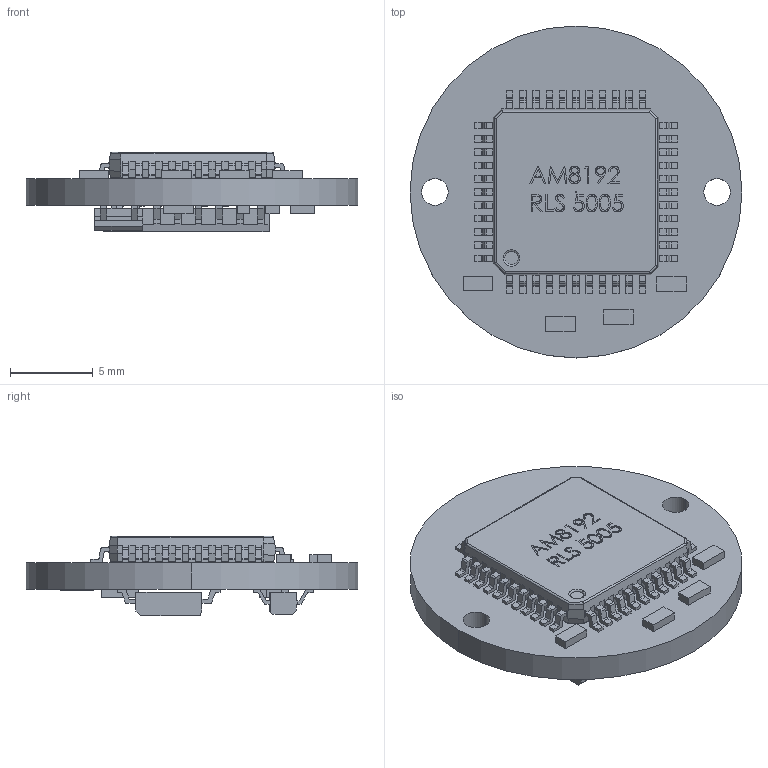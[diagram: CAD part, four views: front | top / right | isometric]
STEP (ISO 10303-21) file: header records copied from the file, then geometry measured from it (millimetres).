
FILE_DESCRIPTION (( 'STEP AP214' ), '1' );
FILE_NAME ('RMB20IC_HR.STEP', '2008-06-13T13:44:17', ( 'RLS' ), ( 'RLS merilna tehnika d.o.o.' ), 'SwSTEP 2.0', 'SolidWorks 2008', '' );
FILE_SCHEMA (( 'AUTOMOTIVE_DESIGN' ));
Length unit declared in the file: millimetre
Products named in the file (1): RMB20IC_HR
Bounding box: 20 x 20 x 4.81 mm (x, y, z)
Volume: 731.7 mm3; surface area: 1064.5 mm2
Topology: 1 solids, 1 shells, 1010 faces, 3062 edges, 2032 vertices
Faces by surface type: plane 810, cylinder 112, bspline 86, torus 2
Entity records: 40996 total; most frequent: CARTESIAN_POINT 11847, ORIENTED_EDGE 6124, DIRECTION 4922, EDGE_CURVE 3062, LINE 2676, VECTOR 2676, VERTEX_POINT 2032, AXIS2_PLACEMENT_3D 1123
